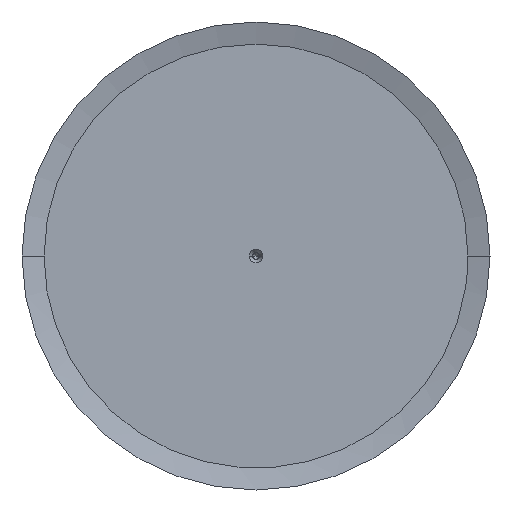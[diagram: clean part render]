
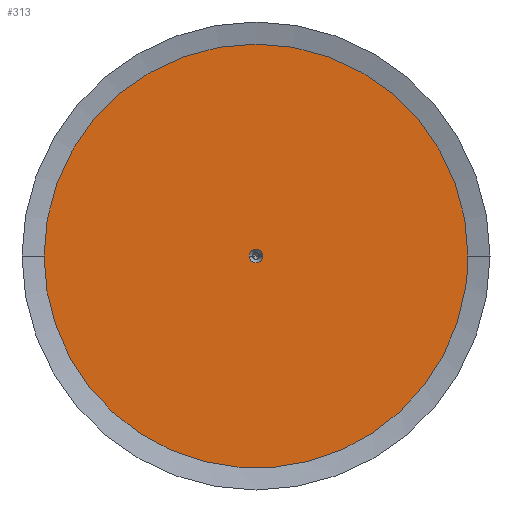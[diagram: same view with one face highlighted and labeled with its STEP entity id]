
A CAD part, left-side view. The second image highlights one B-rep face of the part: STEP entity #313.
In plain terms, the highlighted planar face has unit normal (-1, 0, 0).
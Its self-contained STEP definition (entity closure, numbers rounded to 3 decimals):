
#313=ADVANCED_FACE('',(#795,#796),#797,.T.);
#795=FACE_BOUND('',#1280,.T.);
#796=FACE_OUTER_BOUND('',#1281,.T.);
#797=PLANE('',#1282);
#1280=EDGE_LOOP('',(#3378,#3379));
#1281=EDGE_LOOP('',(#3380,#3381,#3382));
#1282=AXIS2_PLACEMENT_3D('',#3383,#3384,#3385);
#3378=ORIENTED_EDGE('',*,*,#3623,.T.);
#3379=ORIENTED_EDGE('',*,*,#3636,.T.);
#3380=ORIENTED_EDGE('',*,*,#3502,.T.);
#3381=ORIENTED_EDGE('',*,*,#3948,.T.);
#3382=ORIENTED_EDGE('',*,*,#3503,.T.);
#3383=CARTESIAN_POINT('',(0.0,0.0,0.0));
#3384=DIRECTION('',(-1.0,0.0,0.0));
#3385=DIRECTION('',(0.0,0.0,1.0));
#3502=EDGE_CURVE('',#4296,#4294,#4297,.T.);
#3503=EDGE_CURVE('',#4291,#4296,#4298,.T.);
#3623=EDGE_CURVE('',#4527,#4529,#4531,.T.);
#3636=EDGE_CURVE('',#4529,#4527,#4551,.T.);
#3948=EDGE_CURVE('',#4294,#4291,#5046,.T.);
#4291=VERTEX_POINT('',#5931);
#4294=VERTEX_POINT('',#5935);
#4296=VERTEX_POINT('',#5938);
#4297=CIRCLE('',#5939,62.5);
#4298=CIRCLE('',#5940,62.5);
#4527=VERTEX_POINT('',#6663);
#4529=VERTEX_POINT('',#6666);
#4531=CIRCLE('',#6669,2.0);
#4551=CIRCLE('',#6695,2.0);
#5046=CIRCLE('',#7755,62.5);
#5931=CARTESIAN_POINT('',(0.0,62.5,0.));
#5935=CARTESIAN_POINT('',(0.0,-62.5,0.));
#5938=CARTESIAN_POINT('',(0.0,-61.696,-9.993));
#5939=AXIS2_PLACEMENT_3D('',#8616,#8617,#8618);
#5940=AXIS2_PLACEMENT_3D('',#8619,#8620,#8621);
#6663=CARTESIAN_POINT('',(0.0,2.0,0.0));
#6666=CARTESIAN_POINT('',(0.0,-2.0,0.));
#6669=AXIS2_PLACEMENT_3D('',#8767,#8768,#8769);
#6695=AXIS2_PLACEMENT_3D('',#8794,#8795,#8796);
#7755=AXIS2_PLACEMENT_3D('',#9395,#9396,#9397);
#8616=CARTESIAN_POINT('',(0.0,0.0,0.0));
#8617=DIRECTION('',(-1.0,0.0,0.0));
#8618=DIRECTION('',(0.0,1.0,0.0));
#8619=CARTESIAN_POINT('',(0.0,0.0,0.0));
#8620=DIRECTION('',(-1.0,0.0,0.0));
#8621=DIRECTION('',(0.0,1.0,0.0));
#8767=CARTESIAN_POINT('',(0.0,0.0,0.0));
#8768=DIRECTION('',(1.0,0.0,0.0));
#8769=DIRECTION('',(0.0,1.0,0.0));
#8794=CARTESIAN_POINT('',(0.0,0.0,0.0));
#8795=DIRECTION('',(1.0,0.0,0.0));
#8796=DIRECTION('',(0.0,1.0,0.0));
#9395=CARTESIAN_POINT('',(0.0,0.0,0.0));
#9396=DIRECTION('',(-1.0,0.0,0.0));
#9397=DIRECTION('',(0.0,1.0,0.0));
